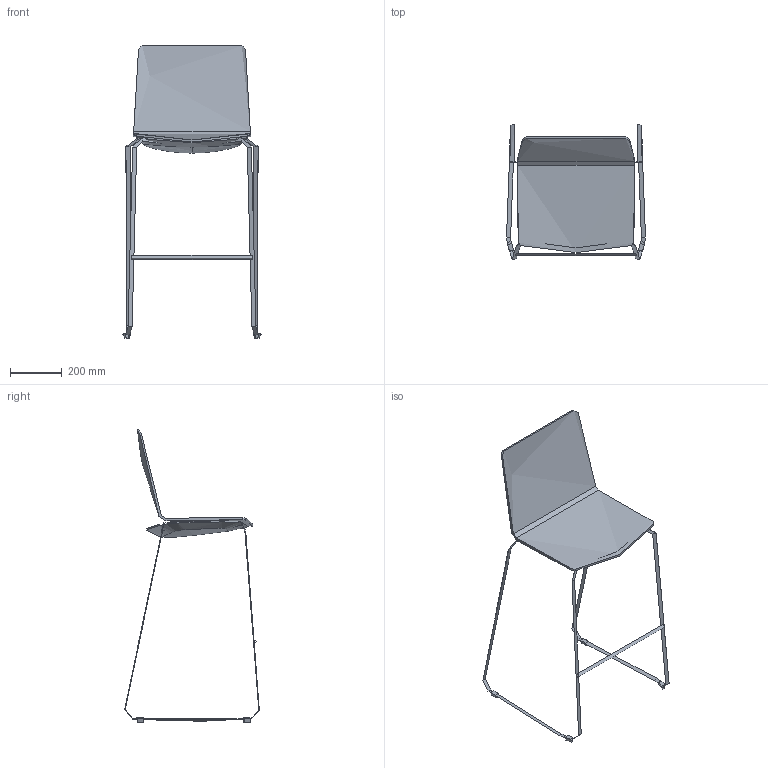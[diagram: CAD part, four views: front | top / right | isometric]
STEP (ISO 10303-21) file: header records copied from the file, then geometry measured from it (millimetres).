
FILE_DESCRIPTION(/* description */ (''),/* implementation_level */ '2;1');
FILE_NAME(/* name */ 'SKYFRE~2',/* time_stamp */ '2017-09-29T20:33:34+02:00',/* author */ (''),/* organization */ (''),/* preprocessor_version */ 'ST-DEVELOPER v15',/* originating_system */ '',/* authorisation */ '');
FILE_SCHEMA (('CONFIG_CONTROL_DESIGN'));
Length unit declared in the file: millimetre
Products named in the file (1): Document
Bounding box: 534.52 x 518.36 x 1124.58 mm (x, y, z)
Volume: 4222512.7 mm3; surface area: 1184271.6 mm2
Topology: 11 solids, 17 shells, 139 faces, 319 edges, 200 vertices
Faces by surface type: bspline 117, plane 22
Entity records: 9972 total; most frequent: CARTESIAN_POINT 8138, ORIENTED_EDGE 596, EDGE_CURVE 316, VERTEX_POINT 200, ADVANCED_FACE 139, FACE_OUTER_BOUND 139, EDGE_LOOP 139, B_SPLINE_CURVE_WITH_KNOTS 72
